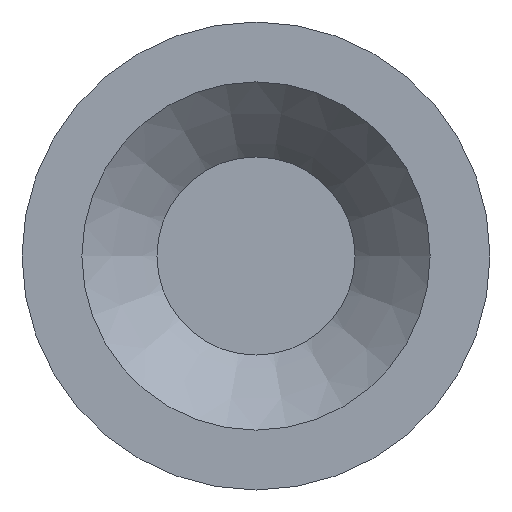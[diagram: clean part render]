
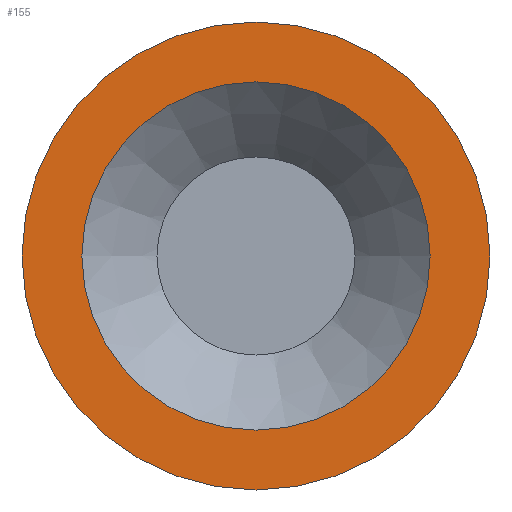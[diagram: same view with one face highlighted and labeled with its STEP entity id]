
A CAD part, left-side view. The second image highlights one B-rep face of the part: STEP entity #155.
In plain terms, the highlighted planar face has unit normal (-1, 0, 0).
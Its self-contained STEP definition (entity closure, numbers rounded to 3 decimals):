
#18=PLANE($,#184);
#36=FACE_BOUND($,#73,.T.);
#48=FACE_OUTER_BOUND($,#72,.T.);
#72=EDGE_LOOP($,(#137));
#73=EDGE_LOOP($,(#138));
#88=CIRCLE($,#183,0.737);
#89=CIRCLE($,#185,0.99);
#101=VERTEX_POINT($,#278);
#102=VERTEX_POINT($,#281);
#114=EDGE_CURVE($,#101,#101,#88,.T.);
#115=EDGE_CURVE($,#102,#102,#89,.T.);
#137=ORIENTED_EDGE($,*,*,#115,.F.);
#138=ORIENTED_EDGE($,*,*,#114,.T.);
#155=ADVANCED_FACE($,(#48,#36),#18,.T.);
#183=AXIS2_PLACEMENT_3D($,#279,#234,#235);
#184=AXIS2_PLACEMENT_3D($,#280,#236,#237);
#185=AXIS2_PLACEMENT_3D($,#282,#238,#239);
#234=DIRECTION('center_axis',(1.,0.,0.));
#235=DIRECTION('ref_axis',(0.,1.,0.));
#236=DIRECTION('center_axis',(-1.,0.,0.));
#237=DIRECTION('ref_axis',(0.,0.,1.));
#238=DIRECTION('center_axis',(1.,0.,0.));
#239=DIRECTION('ref_axis',(0.,1.,0.));
#278=CARTESIAN_POINT('',(4.8,0.737,0.));
#279=CARTESIAN_POINT('Origin',(4.8,0.,0.));
#280=CARTESIAN_POINT('Origin',(4.8,0.863,0.));
#281=CARTESIAN_POINT('',(4.8,0.99,0.));
#282=CARTESIAN_POINT('Origin',(4.8,0.,0.));
